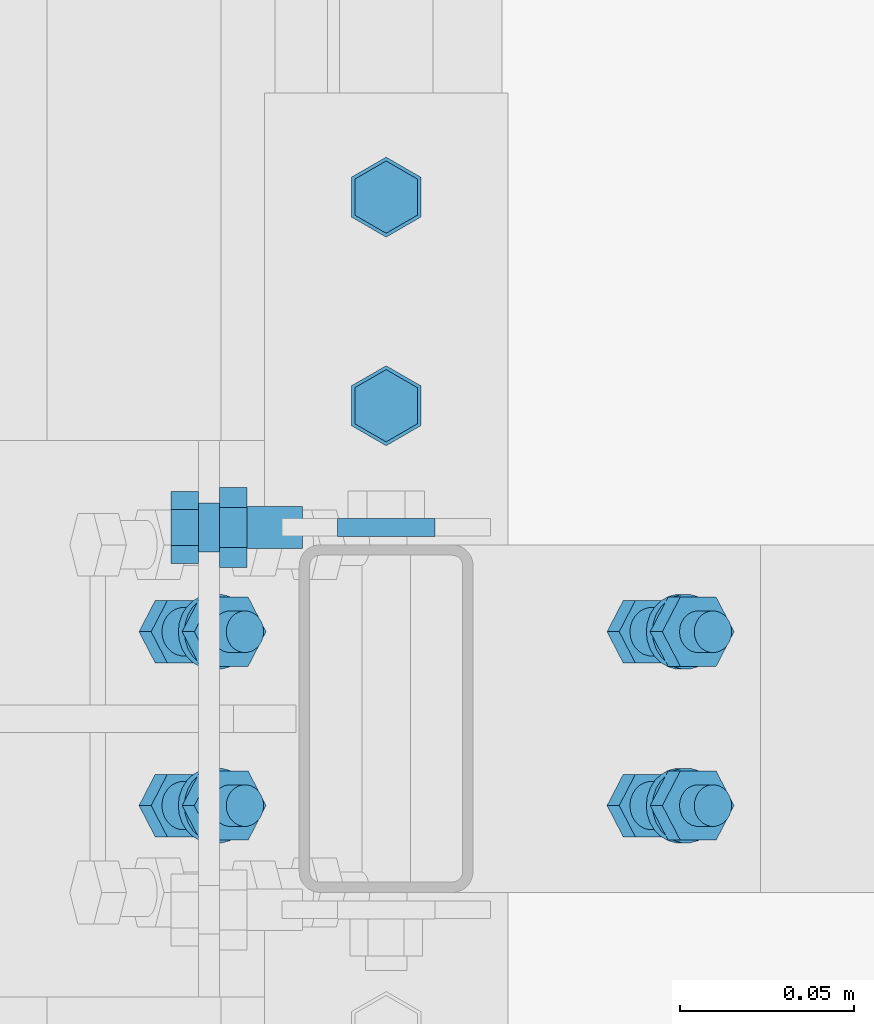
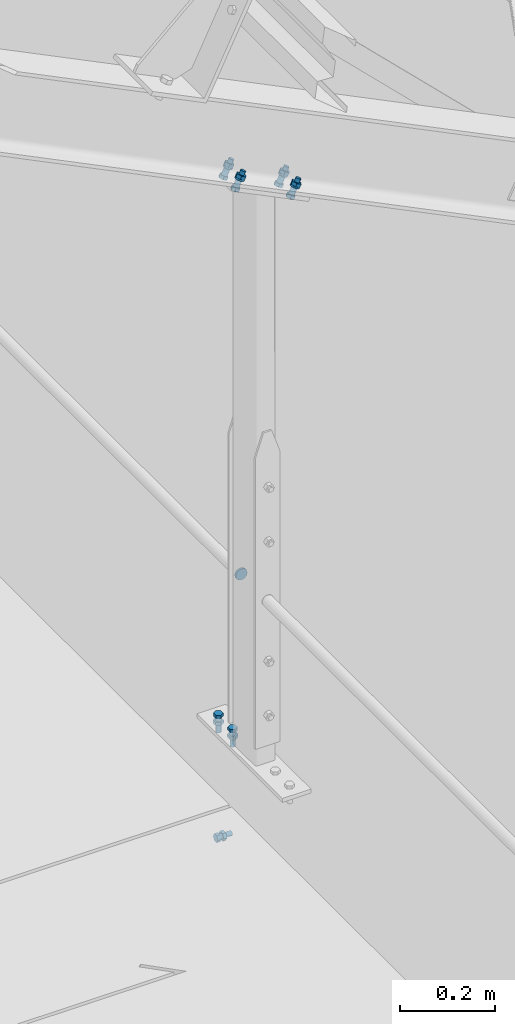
# One storey, part 330 of 362: 5 mechanical fasteners.
"""IFC2X3 building model written with IfcOpenShell, lengths in millimetres."""

from ifc_helpers import new_model, si_unit, frame, origin_with_axes, origin_2d_with_axis, place, context, subcontext, project, spatial, polyline, circle, outline, extrude, source, transform, mapped, material, type_object, element, save


model = new_model("IFC2X3")

# Units and contexts
model_context = context("Model", 3, precision=1e-05, world=origin_with_axes())
body_context = subcontext(model_context, "Body", "Model", "MODEL_VIEW")
ifc_project = project(units=[si_unit("LENGTHUNIT", "METRE", prefix="MILLI"), si_unit("AREAUNIT", "SQUARE_METRE"), si_unit("VOLUMEUNIT", "CUBIC_METRE"), si_unit("MASSUNIT", "GRAM", prefix="KILO"), si_unit("TIMEUNIT", "SECOND"), si_unit("PLANEANGLEUNIT", "RADIAN"), si_unit("SOLIDANGLEUNIT", "STERADIAN"), si_unit("THERMODYNAMICTEMPERATUREUNIT", "DEGREE_CELSIUS"), si_unit("LUMINOUSINTENSITYUNIT", "LUMEN")], contexts=[model_context])

# Site, building, storey
site_placement = place(None, origin_with_axes())
site = spatial("IfcSite", under=ifc_project, at=site_placement, Name="Undefined", CompositionType="ELEMENT")
building_placement = place(site_placement, origin_with_axes())
building = spatial("IfcBuilding", under=site, at=building_placement, Name="Undefined", CompositionType="ELEMENT")
storey_placement = place(building_placement, origin_with_axes())
storey = spatial("IfcBuildingStorey", under=building, at=storey_placement, Name="Undefined", CompositionType="ELEMENT", Elevation=0.0)

# Mechanical fasteners
ifc_material_1 = material(Name="8.8-SB-ZINGUE")
mechanical_fastener_type = type_object("IfcMechanicalFastenerType", Name="Bolt assembly")
shared_shape_1 = source(origin_with_axes(), body_context, "Body", "SweptSolid", [
    extrude(circle(Radius=7.0, at=origin_2d_with_axis()), frame((0.0, -10.0000010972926, 0.0), z_axis=(0.0, 1.0, 0.0), x_axis=(1.0, 0.0, 0.0)), (0.0, 0.0, 1.0), 10.1),
    extrude(outline(polyline([(10.39230484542, 0.0), (5.19615242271, 9.00000000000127), (-5.19615242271, 9.00000000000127), (-10.39230484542, 0.0), (-5.19615242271, -9.00000000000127), (5.19615242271, -9.00000000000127), (10.39230484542, 0.0)])), frame((0.0, -17.92, 0.0), z_axis=(0.0, 1.0, 0.0), x_axis=(1.0, 0.0, 0.0)), (0.0, 0.0, 1.0), 7.92),
    extrude(circle(Radius=6.0, at=origin_2d_with_axis()), frame((0.0, -10.0000010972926, 0.0), z_axis=(0.0, 1.0, 0.0), x_axis=(1.0, 0.0, 0.0)), (0.0, 0.0, 1.0), 40.0),
    extrude(outline(polyline([(11.5008173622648, 0.0), (5.7504086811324, 9.96000000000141), (-5.7504086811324, 9.96000000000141), (-11.5008173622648, 0.0), (-5.7504086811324, -9.96000000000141), (5.7504086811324, -9.96000000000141), (11.5008173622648, 0.0)])), frame((0.0, 0.0, 0.0), z_axis=(0.0, 1.0, 0.0), x_axis=(1.0, 0.0, 0.0)), (0.0, 0.0, 1.0), 7.92),
])
mechanical_fastener_1_placement = place(storey_placement, frame((35593.9917140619, 11550.0001062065, 8239.99999240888), z_axis=(1.0, 0.0, 0.0), x_axis=(0.0, -1.0, 0.0)))
element("IfcMechanicalFastener", 1, at=mechanical_fastener_1_placement, inside=storey, type_object=mechanical_fastener_type, material=ifc_material_1, Name="Bolt assembly", NominalDiameter=12.0, NominalLength=40.0, context=body_context, shape_type="MappedRepresentation", body=[
    mapped(shared_shape_1, transform((0.0, 0.0, 0.0))),
    mapped(shared_shape_1, transform((60.0, 0.0, 0.0))),
])
ifc_material_2 = material(Name="6.8")
shared_shape_2 = source(origin_with_axes(), body_context, "Body", "SweptSolid", [
    extrude(circle(Radius=14.0, at=origin_2d_with_axis()), frame((0.0, -2.5, 0.0), z_axis=(0.0, 1.0, 0.0), x_axis=(1.0, 0.0, 0.0)), (0.0, 0.0, 1.0), 5.1),
])
mechanical_fastener_2_placement = place(storey_placement, frame((35593.9917198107, 11454.9999942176, 8673.79999929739), z_axis=(0.0, 0.0, 1.0), x_axis=(-1.0, 0.0, 0.0)))
element("IfcMechanicalFastener", 2, at=mechanical_fastener_2_placement, inside=storey, type_object=mechanical_fastener_type, material=ifc_material_2, Name="Bolt assembly", NominalDiameter=27.0, NominalLength=10.0, context=body_context, shape_type="MappedRepresentation", body=[
    mapped(shared_shape_2, transform((0.0, 0.0, 0.0))),
])
shared_shape_3 = source(origin_with_axes(), body_context, "Body", "SweptSolid", [
    extrude(circle(Radius=7.0, at=origin_2d_with_axis()), frame((0.0, -0.100011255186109, 0.0), z_axis=(0.0, 1.0, 0.0), x_axis=(1.0, 0.0, 0.0)), (0.0, 0.0, 1.0), 8.6),
    extrude(circle(Radius=7.0, at=origin_2d_with_axis()), frame((0.0, -9.9, 0.0), z_axis=(0.0, 1.0, 0.0), x_axis=(1.0, 0.0, 0.0)), (0.0, 0.0, 1.0), 10.0),
    extrude(outline(polyline([(10.39230484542, 0.0), (5.19615242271, 9.00000000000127), (-5.19615242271, 9.00000000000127), (-10.39230484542, 0.0), (-5.19615242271, -9.00000000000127), (5.19615242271, -9.00000000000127), (10.39230484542, 0.0)])), frame((0.0, -17.92, 0.0), z_axis=(0.0, 1.0, 0.0), x_axis=(1.0, 0.0, 0.0)), (0.0, 0.0, 1.0), 7.92),
    extrude(circle(Radius=6.0, at=origin_2d_with_axis()), frame((0.0, -10.0000010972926, 0.0), z_axis=(0.0, 1.0, 0.0), x_axis=(1.0, 0.0, 0.0)), (0.0, 0.0, 1.0), 40.0),
    extrude(circle(Radius=10.8, at=origin_2d_with_axis()), frame((0.0, 8.49999994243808, 0.0), z_axis=(0.0, 1.0, 0.0), x_axis=(1.0, 0.0, 0.0)), (0.0, 0.0, 1.0), 3.96),
    extrude(outline(polyline([(11.5008173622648, 0.0), (5.7504086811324, 9.96000000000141), (-5.7504086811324, 9.96000000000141), (-11.5008173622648, 0.0), (-5.7504086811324, -9.96000000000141), (5.7504086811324, -9.96000000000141), (11.5008173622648, 0.0)])), frame((0.0, 12.4599999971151, 0.0), z_axis=(0.0, 1.0, 0.0), x_axis=(1.0, 0.0, 0.0)), (0.0, 0.0, 1.0), 7.92),
])
for number, where, z_axis, x_axis, name in (
    (3, (35674.7575800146, 11400.0000000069, 9681.79442846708), (0.0, 1.0, 0.0), (-0.897398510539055, -1.29999898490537e-08, 0.441220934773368), "Bolt assembly"),
    (4, (35540.1478034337, 11400.0000000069, 9747.97756868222), (0.0, -1.0, 0.0), (0.897398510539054, 0.0, -0.44122093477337), "Bolt assembly"),
):
    element("IfcMechanicalFastener", number, at=place(storey_placement, frame(where, z_axis=z_axis, x_axis=x_axis)), inside=storey, type_object=mechanical_fastener_type, material=ifc_material_1, Name=name, NominalDiameter=12.0, NominalLength=40.0, context=body_context, shape_type="MappedRepresentation", body=[
        mapped(shared_shape_3, transform((0.0, 0.0, -25.0))),
        mapped(shared_shape_3, transform((0.0, 0.0, 25.0))),
    ])
shared_shape_4 = source(origin_with_axes(), body_context, "Body", "SweptSolid", [
    extrude(circle(Radius=7.0, at=origin_2d_with_axis()), frame((0.0, -6.5, 0.0), z_axis=(0.0, 1.0, 0.0), x_axis=(1.0, 0.0, 0.0)), (0.0, 0.0, 1.0), 6.1),
    extrude(outline(polyline([(10.39230484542, 0.0), (5.19615242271, 9.00000000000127), (-5.19615242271, 9.00000000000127), (-10.39230484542, 0.0), (-5.19615242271, -9.00000000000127), (5.19615242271, -9.00000000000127), (10.39230484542, 0.0)])), frame((0.0, -14.42, 0.0), z_axis=(0.0, 1.0, 0.0), x_axis=(1.0, 0.0, 0.0)), (0.0, 0.0, 1.0), 7.92),
    extrude(circle(Radius=6.0, at=origin_2d_with_axis()), frame((0.0, -6.5, 0.0), z_axis=(0.0, 1.0, 0.0), x_axis=(1.0, 0.0, 0.0)), (0.0, 0.0, 1.0), 30.0),
    extrude(outline(polyline([(11.5008173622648, 0.0), (5.7504086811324, 9.96000000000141), (-5.7504086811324, 9.96000000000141), (-11.5008173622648, 0.0), (-5.7504086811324, -9.96000000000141), (5.7504086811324, -9.96000000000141), (11.5008173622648, 0.0)])), frame((0.0, -0.5, 0.0), z_axis=(0.0, 1.0, 0.0), x_axis=(1.0, 0.0, 0.0)), (0.0, 0.0, 1.0), 7.92),
])
mechanical_fastener_3_placement = place(storey_placement, frame((35546.4917140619, 11454.9999906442, 8015.00000000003), z_axis=(0.0, 0.0, 1.0), x_axis=(0.0, -1.0, 0.0)))
element("IfcMechanicalFastener", 5, at=mechanical_fastener_3_placement, inside=storey, type_object=mechanical_fastener_type, material=ifc_material_1, Name="Bolt assembly", NominalDiameter=12.0, NominalLength=30.0, context=body_context, shape_type="MappedRepresentation", body=[
    mapped(shared_shape_4, transform((0.0, 0.0, 0.0))),
])

save(model, "model.ifc")
